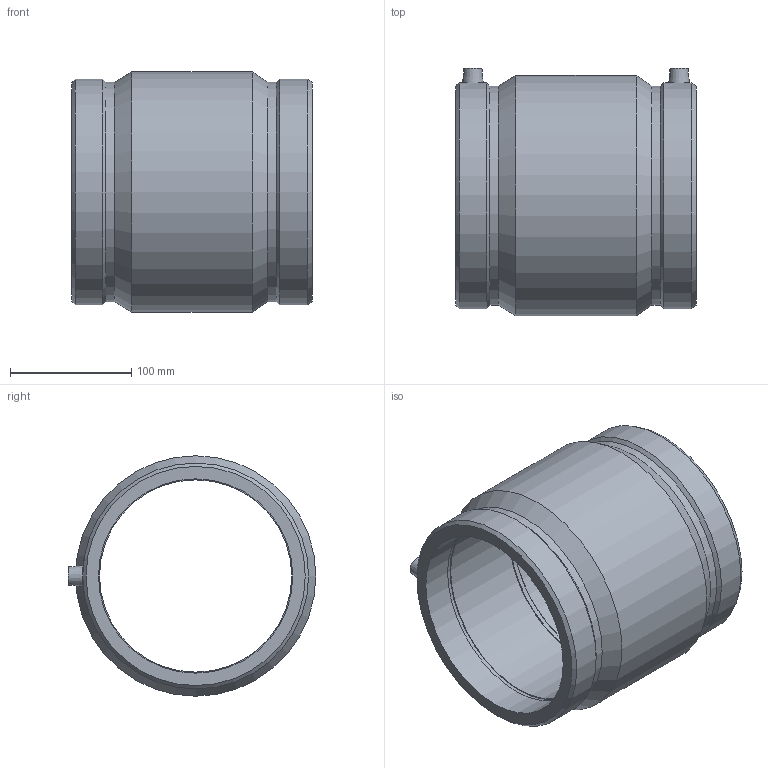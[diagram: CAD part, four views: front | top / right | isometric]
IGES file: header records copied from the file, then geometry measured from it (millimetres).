
Global section: file name: 450104160.ipt; native system: Autodesk Inventor 2015; preprocessor: unknown; author: KIM; date: 20171106.093353; units: millimetre
Bounding box: 198 x 204 x 198 mm (x, y, z)
Volume: 1757100 mm3; surface area: 239332.6 mm2
Topology: 1 solids, 1 shells, 36 faces, 80 edges, 54 vertices
Faces by surface type: plane 12, revolution 9, cone 8, cylinder 7
Full cylindrical faces by diameter (mm): 4 x2, 180.536 x2, 186.12 x2, 198 x1
